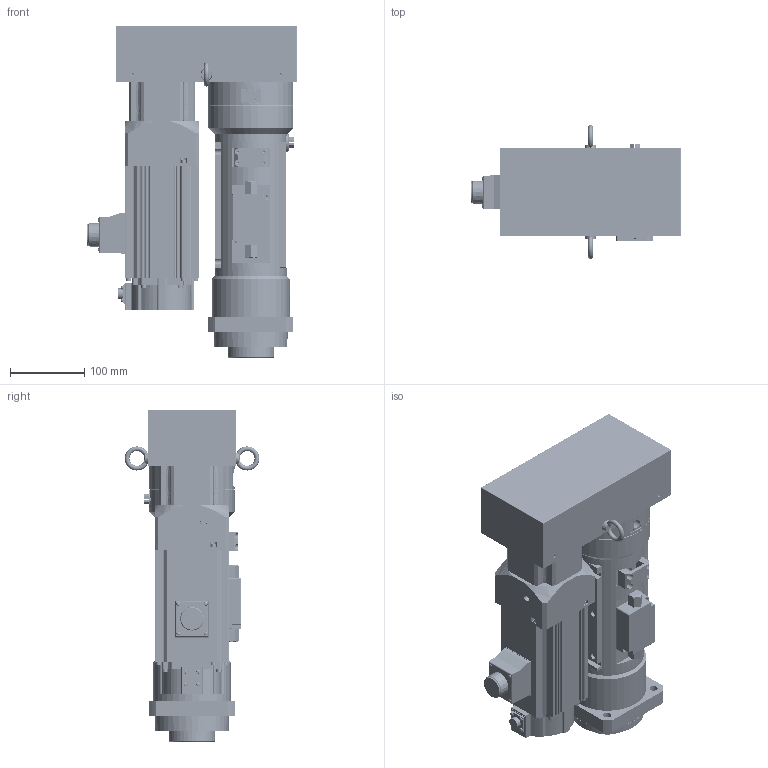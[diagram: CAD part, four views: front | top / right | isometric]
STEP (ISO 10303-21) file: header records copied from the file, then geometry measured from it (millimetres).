
FILE_DESCRIPTION( ('This file contains a STEP AP42 implementation' ,'as created by ZW3D STEP Interface translator.') ,'2;1' );
FILE_NAME( 'OACIS-DC-P015-300-250-A6_V20.01.stp' ,'25 327. 93058', (''), ('ZWCAD Software Co.'), 'Version 1.0', 'ZW3D to STEP translator', '' );
FILE_SCHEMA(('AP242_MANAGED_MODEL_BASED_3D_ENGINEERING_MIM_LF { 1 0 10303 442 1 1 4 }'));
Length unit declared in the file: millimetre
Products named in the file (30): 0; OACIS-P010-300-200-A6_ASM_20.01; P030-300-200-A6_BALL SCREW SHAFT_V20.01; P030-300-200-A6_BALL SCREW NUT_V20.01; OACIS-P010-300-200-A6_ASM_20.01(晦獄高); P030-100-200-A6_PRESS SHAFT_V20.01; P030-300-200-A6_LOAD CELL_V20.01; P030-300-200-A6_PRESS HOUSING_V20.01; 300000041002_SLIDE KEY_v01.00; P030-100-200-A6_SLIDE COVER FRONT_V20.01; P030-100-200-A6_SLIDE COVER REAR_V20.01; HLBC20; 103000040801_TIMING PULLEY ASM_v02.00_HTPA36S8M250-A-V18-Z32-J19+MLM18; P030-300-200-A6_FRONT COVER_V20.01; FRONT SEAL(Scraper DA17_WD1700600); 736_M_18x1_5_1; BC-PBB-6P; SENSOR GUIDE; P010-300-200-A6_BACK PLATE_V20.01; ab0901-p0401300505; MSME202G1H; P030-300-200-A6_TIMING PULLEY ASM_v20.01_HTPA36S8M250-A-V32-Z50-J28+MLM32_V20; MLM22; DEFAULT_2; DEFAULT; DEFAULT_1; P030-300-200-A6_HIGH TORQUE TIMING BELT_V20.01; P010-300-200-A6_COVER_V20.01; PR1CHIC8_; PR1CHIC8__1_渠蘆 犒餌
Assembly tree (29 placements, depth 5):
  0
  OACIS-P010-300-200-A6_ASM_20.01
    P030-300-200-A6_BALL SCREW SHAFT_V20.01
    P030-300-200-A6_BALL SCREW NUT_V20.01
    OACIS-P010-300-200-A6_ASM_20.01(晦獄高)
    P030-100-200-A6_PRESS SHAFT_V20.01
    P030-300-200-A6_LOAD CELL_V20.01
    P030-300-200-A6_PRESS HOUSING_V20.01
    300000041002_SLIDE KEY_v01.00
    P030-100-200-A6_SLIDE COVER FRONT_V20.01
    P030-100-200-A6_SLIDE COVER REAR_V20.01
    HLBC20
    103000040801_TIMING PULLEY ASM_v02.00_HTPA36S8M250-A-V18-Z32-J19+MLM18
    P030-300-200-A6_FRONT COVER_V20.01
    FRONT SEAL(Scraper DA17_WD1700600)
    736_M_18x1_5_1  x2
    BC-PBB-6P
    SENSOR GUIDE
    P010-300-200-A6_BACK PLATE_V20.01
    ab0901-p0401300505
    MSME202G1H
    P030-300-200-A6_TIMING PULLEY ASM_v20.01_HTPA36S8M250-A-V32-Z50-J28+MLM32_V20
      MLM22
        DEFAULT_2
          DEFAULT
          DEFAULT_1
    P030-300-200-A6_HIGH TORQUE TIMING BELT_V20.01
    P010-300-200-A6_COVER_V20.01
    PR1CHIC8_
    PR1CHIC8__1_渠蘆 犒餌
Bounding box: 283 x 181.6 x 448.5 mm (x, y, z)
Volume: 6115456.9 mm3; surface area: 1128904.2 mm2
Topology: 47 solids, 56 shells, 2940 faces, 7638 edges, 5005 vertices
Faces by surface type: cylinder 1291, plane 1170, cone 250, bspline 119, torus 94, sphere 16
Full cylindrical faces by diameter (mm): 1.6 x8, 2.459 x5, 2.75 x4, 3.2 x5, 3.242 x10, 3.3 x38, 4 x8, 4.134 x12, 4.2 x4, 4.3 x20, 4.5 x4, 5 x42, 5.5 x6, 6.5 x4, 6.6 x14, 6.8 x20, 7 x20, 8 x32, 8.4 x8, 8.5 x25, 9 x4, 9.5 x2, 11 x12, 12 x1, 14.8 x1, 15 x8, 15.5 x2, 18 x5, 18.917 x2, 19 x1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
Entity records: 99616 total; most frequent: CARTESIAN_POINT 22234, DIRECTION 16196, ORIENTED_EDGE 14767, EDGE_CURVE 7419, AXIS2_PLACEMENT_3D 6467, VERTEX_POINT 4853, CIRCLE 3598, EDGE_LOOP 3418
